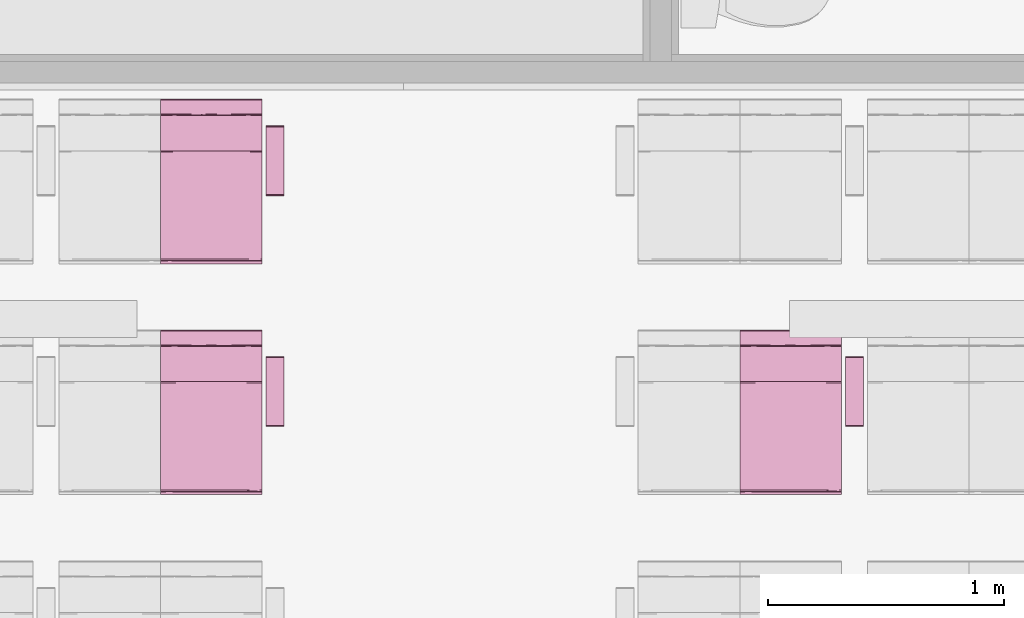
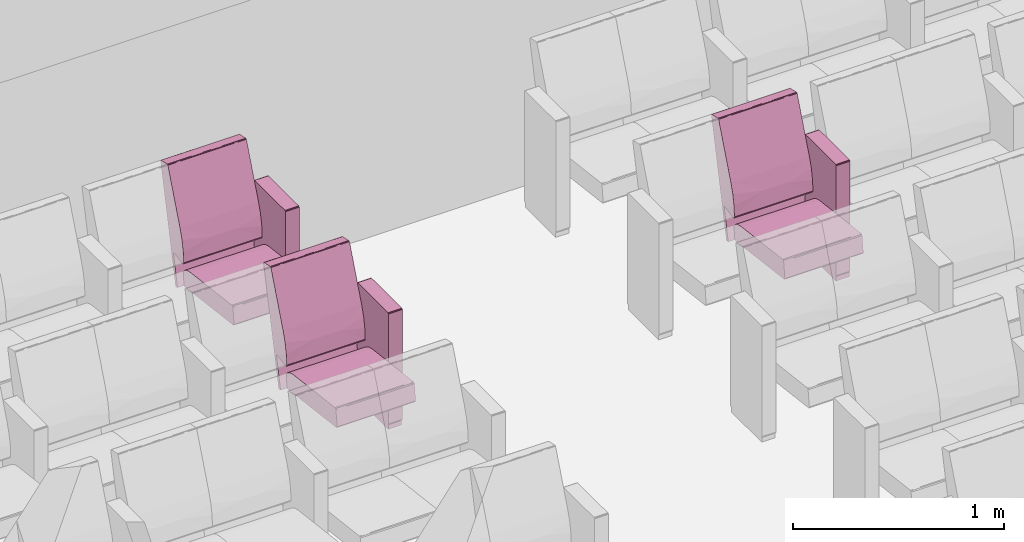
# One storey, part 124 of 155: 3 furnishings.
"""IFC2X3 building model written with IfcOpenShell, lengths in metres."""

from ifc_helpers import new_model, entity, si_unit, converted_unit, derived_unit, direction, frame, origin, place, context, subcontext, project, spatial, faceted_brep, source, transform, mapped, material, material_list, type_object, type_shapes, element, save


model = new_model("IFC2X3")

# Units and contexts
model_context = context("Model", 3, precision=1e-05, world=origin(), true_north=direction((6.12303176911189e-17, 1.0)))
body_context = subcontext(model_context, "Body", "Model", "MODEL_VIEW")
ifc_project = project(units=[si_unit("LENGTHUNIT", "METRE"), si_unit("AREAUNIT", "SQUARE_METRE"), si_unit("VOLUMEUNIT", "CUBIC_METRE"), converted_unit("PLANEANGLEUNIT", "DEGREE", entity("IfcRatioMeasure", 0.0174532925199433), si_unit("PLANEANGLEUNIT", "RADIAN"), dimensions=[0, 0, 0, 0, 0, 0, 0]), si_unit("MASSUNIT", "GRAM", prefix="KILO"), derived_unit("MASSDENSITYUNIT", [(si_unit("MASSUNIT", "GRAM", prefix="KILO"), 1), (si_unit("LENGTHUNIT", "METRE"), -3)]), si_unit("TIMEUNIT", "SECOND"), si_unit("FREQUENCYUNIT", "HERTZ"), si_unit("THERMODYNAMICTEMPERATUREUNIT", "DEGREE_CELSIUS"), derived_unit("THERMALTRANSMITTANCEUNIT", [(si_unit("MASSUNIT", "GRAM", prefix="KILO"), 1), (si_unit("THERMODYNAMICTEMPERATUREUNIT", "KELVIN"), -1), (si_unit("TIMEUNIT", "SECOND"), -3)]), derived_unit("VOLUMETRICFLOWRATEUNIT", [(si_unit("LENGTHUNIT", "METRE"), 3), (si_unit("TIMEUNIT", "SECOND"), -1)]), si_unit("ELECTRICCURRENTUNIT", "AMPERE"), si_unit("ELECTRICVOLTAGEUNIT", "VOLT"), si_unit("POWERUNIT", "WATT"), si_unit("FORCEUNIT", "NEWTON", prefix="KILO"), si_unit("ILLUMINANCEUNIT", "LUX"), si_unit("LUMINOUSFLUXUNIT", "LUMEN"), si_unit("LUMINOUSINTENSITYUNIT", "CANDELA"), derived_unit("USERDEFINED", [(si_unit("MASSUNIT", "GRAM", prefix="KILO"), -1), (si_unit("LENGTHUNIT", "METRE"), -2), (si_unit("TIMEUNIT", "SECOND"), 3), (si_unit("LUMINOUSFLUXUNIT", "LUMEN"), 1)]), derived_unit("LINEARVELOCITYUNIT", [(si_unit("LENGTHUNIT", "METRE"), 1), (si_unit("TIMEUNIT", "SECOND"), -1)]), si_unit("PRESSUREUNIT", "PASCAL"), derived_unit("USERDEFINED", [(si_unit("LENGTHUNIT", "METRE"), -2), (si_unit("MASSUNIT", "GRAM", prefix="KILO"), 1), (si_unit("TIMEUNIT", "SECOND"), -2)])], contexts=[model_context])

# Site, building, storey, space
site_placement = place(None, frame((26.9889013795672, -17.5624287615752, 0.0)))
site = spatial("IfcSite", under=ifc_project, at=site_placement, Name="Default", CompositionType="ELEMENT")
building_placement = place(site_placement, origin())
building = spatial("IfcBuilding", under=site, at=building_placement, Name="C. C. L. Monsenhor Antônio Sampaio", CompositionType="ELEMENT")
storey_placement = place(building_placement, frame((0.0, 0.0, 1.19999999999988)))
storey = spatial("IfcBuildingStorey", under=building, at=storey_placement, Name="Nível 1.2", CompositionType="ELEMENT", Elevation=1.19999999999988)
space_placement = place(storey_placement, origin())
space = spatial("IfcSpace", under=storey, at=space_placement, Name="94", CompositionType="ELEMENT", InteriorOrExteriorSpace="INTERNAL")

# Furnishings
ifc_material_1 = material(Name="V9 - V9 - Ecopelle_672_658")
ifc_material_2 = material(Name="V9 - V9 - RAL_9006_Grigio")
ifc_material_list_1 = material_list([ifc_material_1, ifc_material_2])
ifc_material_list_2 = material_list([ifc_material_1, ifc_material_2])
furniture_type = type_object("IfcFurnitureType", Name="Cadeira auditório", material=ifc_material_list_2)
shared_shape = source(origin(), body_context, "Body", "Brep", [
    faceted_brep([(0.405536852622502, -0.1075, 0.339809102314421), (0.410560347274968, -0.131924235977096, 0.34246450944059), (0.405536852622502, -0.156348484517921, 0.339809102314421), (0.41079981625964, -0.0179166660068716, 0.342749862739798), (0.410597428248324, -0.084060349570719, 0.342506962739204), (0.405536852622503, -0.0537499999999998, 0.339809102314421), (0.410248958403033, -0.173608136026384, 0.342130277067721), (0.405536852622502, -0.215, 0.339809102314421), (0.412515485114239, -0.143333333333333, 0.348529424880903), (0.412515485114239, -0.185674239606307, 0.348529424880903), (0.405536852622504, 0.1075, 0.33980910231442), (0.405536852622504, 0.156348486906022, 0.33980910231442), (0.410560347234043, 0.131924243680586, 0.342464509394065), (0.405536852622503, 0.0, 0.33980910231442), (0.411170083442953, 0.0341365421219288, 0.343251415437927), (0.41251548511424, 0.0, 0.348529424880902), (0.412515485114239, -0.0358333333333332, 0.348529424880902), (0.412515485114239, -0.0716666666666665, 0.348529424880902), (0.41251548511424, 0.143333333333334, 0.348529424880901), (0.41059742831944, 0.0840603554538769, 0.342506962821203), (0.405536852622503, 0.0537500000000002, 0.33980910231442), (0.410248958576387, 0.173608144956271, 0.342130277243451), (0.410799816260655, 0.215, 0.342749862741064), (0.412515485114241, 0.185674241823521, 0.348529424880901), (0.412515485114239, -0.215, 0.348529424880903), (0.410799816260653, -0.215, 0.342749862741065), (0.412515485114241, 0.215, 0.348529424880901), (0.41251548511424, 0.0716666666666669, 0.348529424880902), (0.405536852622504, 0.215, 0.33980910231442), (-0.0557900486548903, -0.215, 0.28268145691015), (-0.0557900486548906, -0.1881249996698, 0.282681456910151), (-0.0557900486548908, -0.161250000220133, 0.282681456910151), (-0.055790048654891, -0.134374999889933, 0.282681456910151), (-0.0557900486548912, -0.107499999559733, 0.282681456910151), (-0.0557900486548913, -0.0806250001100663, 0.282681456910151), (-0.0557900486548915, -0.0537499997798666, 0.282681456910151), (-0.0557900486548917, -0.0268749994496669, 0.282681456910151), (-0.0557900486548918, 0.0, 0.28268145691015), (-0.0557900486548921, 0.0268750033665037, 0.282681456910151), (-0.0557900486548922, 0.0537499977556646, 0.282681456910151), (-0.0557900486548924, 0.0806249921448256, 0.282681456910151), (-0.0557900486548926, 0.107499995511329, 0.282681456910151), (-0.0557900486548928, 0.138065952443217, 0.282681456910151), (-0.055790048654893, 0.168631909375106, 0.282681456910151), (-0.0557900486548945, 0.215, 0.28268145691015), (-0.0594787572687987, -0.0179017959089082, 0.283700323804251), (-0.0613666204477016, 0.0, 0.287029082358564), (-0.0594787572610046, 0.0152829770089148, 0.283700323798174), (-0.0594787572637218, -0.215, 0.283700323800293), (-0.0613666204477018, -0.215, 0.287029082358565), (-0.0613666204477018, -0.191815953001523, 0.287029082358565), (-0.0613666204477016, -0.030565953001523, 0.287029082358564), (-0.0593340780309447, -0.0671874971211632, 0.283591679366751), (-0.0593337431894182, 0.184174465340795, 0.283591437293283), (-0.0594787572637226, 0.215, 0.283700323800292), (-0.0593023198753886, 0.0940625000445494, 0.283568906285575), (-0.0613666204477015, 0.0611319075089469, 0.287029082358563), (-0.0613666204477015, 0.0916978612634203, 0.287029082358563), (-0.0613666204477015, 0.122263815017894, 0.287029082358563), (-0.0597338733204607, -0.147039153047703, 0.283913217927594), (-0.0613666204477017, -0.122263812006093, 0.287029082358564), (-0.059382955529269, -0.118123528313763, 0.28362747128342), (-0.0592501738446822, -0.180223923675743, 0.283532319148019), (-0.0613666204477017, -0.168631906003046, 0.287029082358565), (-0.0588783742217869, -0.0926899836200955, 0.283298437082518), (-0.0613666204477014, 0.168631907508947, 0.287029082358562), (-0.0613666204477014, 0.215, 0.287029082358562), (-0.0592576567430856, 0.123736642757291, 0.283537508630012), (-0.0594787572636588, 0.153348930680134, 0.283700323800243), (-0.0613666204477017, -0.0916978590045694, 0.287029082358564), (-0.0613666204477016, 0.0305659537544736, 0.287029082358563), (-0.059645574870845, 0.045848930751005, 0.283836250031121), (-0.0613666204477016, -0.0611319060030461, 0.287029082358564), (-0.0693403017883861, 0.143333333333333, 0.351419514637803), (-0.069340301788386, 0.215, 0.351419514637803), (-0.0693403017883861, -0.215, 0.351419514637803), (-0.0693403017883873, -0.143333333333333, 0.351419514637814), (-0.069340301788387, -0.0716666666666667, 0.351419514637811), (-0.0693403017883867, 0.0, 0.351419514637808), (-0.0693403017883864, 0.0716666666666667, 0.351419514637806), (-0.0653387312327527, -0.0126787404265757, 0.368680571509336), (-0.0645543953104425, -0.112272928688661, 0.369803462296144), (-0.0597085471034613, 0.0, 0.37476954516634), (-0.0655136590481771, 0.104400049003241, 0.368411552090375), (-0.0681665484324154, 0.0888707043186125, 0.36292533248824), (-0.0694879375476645, -0.0590582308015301, 0.356377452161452), (-0.0695056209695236, 0.125492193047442, 0.356093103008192), (-0.0597085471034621, 0.110316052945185, 0.374769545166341), (-0.0676206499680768, -0.215, 0.364371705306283), (-0.0672851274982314, -0.108066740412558, 0.365148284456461), (-0.0690003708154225, -0.132942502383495, 0.359900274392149), (-0.068624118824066, -0.215, 0.356813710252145), (-0.0686241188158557, 0.214999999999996, 0.356813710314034), (-0.0694502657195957, 0.0358333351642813, 0.356863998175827), (-0.0686999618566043, -0.035833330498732, 0.36116674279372), (-0.067620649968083, 0.214999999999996, 0.364371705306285), (-0.063664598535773, 0.214999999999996, 0.369570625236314), (-0.0597085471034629, 0.214999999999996, 0.374769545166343), (-0.0597085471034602, -0.110316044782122, 0.374769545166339), (-0.0636645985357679, -0.215, 0.36957062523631), (-0.0597085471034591, -0.215, 0.374769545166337), (-0.0018793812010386, -0.215, 0.398686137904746), (-0.0324117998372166, -0.0436847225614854, 0.39063968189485), (-0.0324117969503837, -0.215, 0.390639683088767), (-0.041847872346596, 0.0856576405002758, 0.386239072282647), (-0.00187938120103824, 0.102488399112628, 0.398686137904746), (-0.00187938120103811, 0.215, 0.398686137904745), (-0.0324117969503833, 0.215, 0.390639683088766), (-0.0219042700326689, 0.0570631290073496, 0.394412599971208), (-0.00187938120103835, 0.0, 0.398686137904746), (0.392202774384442, -0.215, 0.447486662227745), (0.392202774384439, -0.156349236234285, 0.447486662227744), (0.392202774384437, -0.107499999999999, 0.447486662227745), (0.392202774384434, -0.0537499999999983, 0.447486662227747), (0.392202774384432, 0.0, 0.447486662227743), (0.392202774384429, 0.0537500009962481, 0.44748666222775), (0.392202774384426, 0.107500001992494, 0.447486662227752), (0.392202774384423, 0.156349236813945, 0.447486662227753), (0.392202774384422, 0.215, 0.447486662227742), (0.397860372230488, 0.0827732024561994, 0.446039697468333), (0.401125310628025, 0.0976984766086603, 0.440530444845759), (0.398104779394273, 0.131924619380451, 0.445856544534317), (0.397373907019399, 0.173462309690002, 0.446363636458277), (0.401125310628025, 0.156349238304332, 0.440530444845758), (0.401125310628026, 0.215000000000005, 0.440530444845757), (0.398104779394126, 0.215000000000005, 0.445856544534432), (0.397860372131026, -0.0827731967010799, 0.446039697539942), (0.398104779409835, -0.131924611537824, 0.445856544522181), (0.398104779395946, -0.0268749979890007, 0.445856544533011), (0.398104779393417, 0.0237489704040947, 0.445856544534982), (0.401125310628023, -0.0488492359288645, 0.440530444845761), (0.401125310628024, 0.0488492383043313, 0.44053044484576), (0.398774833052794, -0.173462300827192, 0.445271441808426), (0.401125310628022, -0.0976984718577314, 0.440530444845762), (0.39810477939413, -0.215, 0.445856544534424), (0.401125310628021, -0.215, 0.440530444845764), (0.401125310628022, -0.156349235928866, 0.440530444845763), (0.401125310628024, 0.0, 0.44053044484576)], [[[0, 1, 2]], [[3, 4, 5]], [[2, 6, 7]], [[8, 9, 6]], [[10, 11, 12]], [[13, 3, 5]], [[3, 14, 15]], [[1, 4, 8]], [[6, 1, 8]], [[4, 3, 16]], [[16, 17, 8, 4]], [[12, 18, 19]], [[4, 1, 0]], [[20, 14, 13]], [[21, 22, 23]], [[15, 16, 3]], [[9, 24, 25]], [[26, 23, 22]], [[7, 6, 25]], [[12, 11, 21]], [[19, 14, 20]], [[4, 0, 5]], [[14, 27, 15]], [[13, 14, 3]], [[19, 18, 27]], [[19, 10, 12]], [[18, 21, 23]], [[10, 19, 20]], [[19, 27, 14]], [[2, 1, 6]], [[21, 11, 28]], [[25, 6, 9]], [[18, 12, 21]], [[22, 21, 28]], [[28, 11, 10, 20, 13, 5, 0, 2, 7, 29, 30, 31, 32, 33, 34, 35, 36, 37, 38, 39, 40, 41, 42, 43, 44]], [[45, 46, 47]], [[48, 49, 50]], [[51, 45, 52]], [[53, 54, 44]], [[55, 56, 57, 58]], [[59, 60, 61]], [[62, 63, 59]], [[34, 64, 52]], [[53, 65, 66]], [[41, 67, 42]], [[37, 36, 35, 45, 47, 38]], [[43, 42, 68]], [[29, 48, 30]], [[59, 31, 62]], [[62, 48, 50]], [[61, 69, 64]], [[65, 53, 68]], [[50, 63, 62]], [[62, 30, 48]], [[55, 58, 67]], [[32, 31, 59]], [[46, 70, 47]], [[65, 68, 58]], [[55, 40, 71]], [[70, 56, 71]], [[61, 33, 32]], [[59, 63, 60]], [[39, 38, 71, 40]], [[47, 71, 38]], [[51, 46, 45]], [[70, 71, 47]], [[71, 56, 55]], [[40, 55, 41]], [[67, 68, 42]], [[43, 68, 53]], [[43, 53, 44]], [[66, 54, 53]], [[68, 67, 58]], [[55, 67, 41]], [[72, 51, 52, 69]], [[62, 31, 30]], [[59, 61, 32]], [[35, 52, 45]], [[64, 34, 33]], [[34, 52, 35]], [[61, 60, 69]], [[52, 64, 69]], [[61, 64, 33]], [[73, 74, 66, 65, 58, 57, 56, 70, 46, 51, 72, 69, 60, 63, 50, 49, 75, 76, 77, 78, 79]], [[80, 81, 82]], [[83, 84, 80]], [[85, 78, 77, 76]], [[73, 79, 86]], [[80, 82, 83]], [[87, 83, 82]], [[88, 89, 90]], [[76, 75, 91]], [[92, 74, 73]], [[91, 90, 85]], [[80, 89, 81]], [[84, 93, 94]], [[84, 86, 93]], [[93, 78, 85]], [[73, 86, 92]], [[94, 93, 85]], [[95, 92, 84]], [[78, 93, 79]], [[80, 84, 94]], [[83, 96, 95]], [[94, 85, 90]], [[87, 97, 96]], [[98, 99, 100]], [[91, 85, 76]], [[94, 90, 89]], [[90, 91, 88]], [[89, 80, 94]], [[89, 99, 81]], [[89, 88, 99]], [[82, 81, 98]], [[81, 99, 98]], [[92, 86, 84]], [[93, 86, 79]], [[84, 83, 95]], [[96, 83, 87]], [[101, 102, 103]], [[104, 97, 87, 82]], [[105, 106, 107]], [[107, 108, 105]], [[109, 102, 101]], [[82, 102, 104]], [[102, 108, 104]], [[103, 102, 100]], [[97, 104, 107]], [[104, 108, 107]], [[102, 82, 98, 100]], [[105, 108, 109]], [[108, 102, 109]], [[109, 101, 110, 111, 112, 113, 114, 115, 116, 117, 118, 106, 105]], [[119, 120, 121]], [[122, 123, 124]], [[122, 125, 118]], [[126, 113, 112]], [[117, 121, 122]], [[121, 117, 116]], [[112, 111, 127]], [[113, 128, 129, 115, 114]], [[126, 130, 128]], [[129, 131, 119]], [[111, 132, 127]], [[132, 111, 110]], [[133, 126, 127]], [[123, 122, 121]], [[132, 134, 135]], [[127, 132, 136]], [[123, 121, 120]], [[127, 136, 133]], [[129, 128, 130, 137, 131]], [[112, 127, 126]], [[126, 133, 130]], [[119, 121, 116]], [[113, 126, 128]], [[119, 115, 129]], [[119, 116, 115]], [[120, 119, 131]], [[117, 122, 118]], [[124, 125, 122]], [[136, 132, 135]], [[110, 134, 132]], [[137, 130, 133, 136, 135, 24, 9, 8, 17, 16, 15, 27, 18, 23, 26, 124, 123, 120, 131]], [[44, 54, 66, 74, 92, 95, 96, 97, 107, 106, 118, 125, 124, 26, 22, 28]], [[75, 49, 48, 29, 7, 25, 24, 135, 134, 110, 101, 103, 100, 99, 88, 91]]]),
    faceted_brep([(0.119812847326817, 0.27, 0.674900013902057), (0.12334838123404, 0.259944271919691, 0.6734355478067), (0.123144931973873, 0.283972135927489, 0.673627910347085), (0.124812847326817, 0.27, 0.669900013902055), (0.119812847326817, 0.232, 0.674900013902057), (0.12334838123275, 0.232, 0.673435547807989), (0.124812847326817, 0.308, 0.669900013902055), (0.119812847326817, 0.308, 0.674900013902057), (0.124812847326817, 0.249888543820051, 0.669900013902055), (0.124812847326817, 0.232, 0.669900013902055), (0.12334838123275, 0.308, 0.673435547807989), (0.124812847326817, 0.232, 0.0349999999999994), (0.124812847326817, 0.27, 0.035), (0.124812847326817, 0.308, 0.035), (0.12334838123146, 0.25994427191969, 0.0314644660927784), (0.123540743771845, 0.283972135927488, 0.0316679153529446), (0.119812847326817, 0.27, 0.0300000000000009), (0.12334838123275, 0.232, 0.0314644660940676), (0.119812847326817, 0.308, 0.0300000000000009), (0.119812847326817, 0.249888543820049, 0.030000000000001), (0.119812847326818, 0.232, 0.030000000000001), (0.123348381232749, 0.308, 0.0314644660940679), (-0.167179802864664, 0.27, 0.0300000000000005), (-0.167179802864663, 0.308, 0.0300000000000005), (-0.167179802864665, 0.232, 0.0300000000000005), (-0.170715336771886, 0.25994427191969, 0.0314644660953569), (-0.17051188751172, 0.283972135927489, 0.0312721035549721), (-0.172179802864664, 0.27, 0.0350000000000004), (-0.170715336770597, 0.232, 0.0314644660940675), (-0.172179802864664, 0.308, 0.0350000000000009), (-0.172179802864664, 0.24988854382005, 0.0350000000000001), (-0.172179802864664, 0.232, 0.0349999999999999), (-0.170715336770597, 0.308, 0.0314644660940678), (-0.172179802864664, 0.308, 0.669900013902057), (-0.172179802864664, 0.232, 0.669900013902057), (-0.172179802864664, 0.27, 0.669900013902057), (-0.170715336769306, 0.259944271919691, 0.673435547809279), (-0.170907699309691, 0.283972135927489, 0.673232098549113), (-0.167179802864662, 0.27, 0.674900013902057), (-0.170715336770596, 0.232, 0.67343554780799), (-0.167179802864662, 0.308, 0.674900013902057), (-0.167179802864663, 0.249888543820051, 0.674900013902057), (-0.167179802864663, 0.232, 0.674900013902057), (-0.170715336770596, 0.308, 0.67343554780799)], [[[0, 1, 2]], [[3, 2, 1]], [[0, 4, 5, 1]], [[2, 3, 6]], [[0, 2, 7]], [[8, 3, 1, 5, 9]], [[7, 2, 10]], [[6, 10, 2]], [[9, 11, 12, 13, 6, 3, 8]], [[12, 14, 15]], [[16, 15, 14]], [[12, 11, 17, 14]], [[15, 16, 18]], [[12, 15, 13]], [[19, 16, 14, 17, 20]], [[13, 15, 21]], [[18, 21, 15]], [[22, 23, 18, 16, 19, 20, 24]], [[22, 25, 26]], [[27, 26, 25]], [[22, 24, 28, 25]], [[26, 27, 29]], [[22, 26, 23]], [[30, 27, 25, 28, 31]], [[23, 26, 32]], [[29, 32, 26]], [[33, 29, 27, 30, 31, 34, 35]], [[35, 36, 37]], [[38, 37, 36]], [[35, 34, 39, 36]], [[37, 38, 40]], [[35, 37, 33]], [[41, 38, 36, 39, 42]], [[33, 37, 43]], [[40, 43, 37]], [[0, 7, 40, 38, 41, 42, 4]], [[42, 39, 34, 31, 28, 24, 20, 17, 11, 9, 5, 4]], [[23, 32, 29, 33, 43, 40, 7, 10, 6, 13, 21, 18]]]),
    faceted_brep([(-0.0655618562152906, -0.215, 0.415143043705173), (-0.0744051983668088, -0.0524423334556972, 0.506888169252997), (-0.0695672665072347, -0.215, 0.476508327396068), (-0.0655618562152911, 0.0, 0.415143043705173), (-0.0744051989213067, 0.0780075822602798, 0.506888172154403), (-0.0655618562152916, 0.1075, 0.415143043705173), (-0.0655618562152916, 0.215, 0.415143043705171), (-0.0655618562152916, -0.1075, 0.415143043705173), (-0.0695672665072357, 0.215, 0.476508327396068), (-0.0811110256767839, 0.215, 0.536911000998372), (-0.0811110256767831, -0.215, 0.536911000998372), (-0.100016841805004, 0.0, 0.595428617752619), (-0.100016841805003, -0.215, 0.595428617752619), (-0.100016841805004, 0.215, 0.595428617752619), (-0.0792851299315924, -0.0716666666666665, 0.404772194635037), (-0.0792851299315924, 0.0, 0.404772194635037), (-0.0698317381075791, -0.0358333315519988, 0.406528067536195), (-0.0698317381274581, 0.215, 0.406528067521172), (-0.0792851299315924, 0.143333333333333, 0.404772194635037), (-0.0792851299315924, 0.215, 0.404772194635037), (-0.0698317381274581, -0.215, 0.406528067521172), (-0.0792851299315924, -0.215, 0.404772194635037), (-0.0792851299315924, -0.143333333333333, 0.404772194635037), (-0.0694171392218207, -0.140338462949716, 0.406857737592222), (-0.0708115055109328, 0.0356393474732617, 0.405868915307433), (-0.0703502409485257, 0.107500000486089, 0.406159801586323), (-0.0792851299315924, 0.0716666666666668, 0.404772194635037), (-0.163837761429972, 0.215, 0.420611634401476), (-0.163837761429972, -0.215, 0.420611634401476), (-0.123612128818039, -0.215, 0.235917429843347), (-0.123612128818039, 0.215, 0.235917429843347), (-0.142059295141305, -0.215, 0.231899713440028), (-0.142059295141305, 0.215, 0.231899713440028), (-0.235388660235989, -0.215, 0.652619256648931), (-0.235388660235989, 0.215, 0.652619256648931), (-0.28428001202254, 0.0, 0.873004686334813), (-0.284280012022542, 0.0268749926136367, 0.873004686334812), (-0.284280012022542, 0.0537499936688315, 0.873004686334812), (-0.284280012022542, 0.0806249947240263, 0.873004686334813), (-0.284280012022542, 0.107499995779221, 0.873004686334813), (-0.284280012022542, 0.134374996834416, 0.873004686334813), (-0.284280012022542, 0.161249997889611, 0.873004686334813), (-0.284280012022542, 0.191295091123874, 0.873004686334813), (-0.28428001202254, 0.215, 0.873004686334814), (-0.284280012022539, -0.215, 0.873004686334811), (-0.28428001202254, -0.191295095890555, 0.873004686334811), (-0.284280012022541, -0.161249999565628, 0.873004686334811), (-0.284280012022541, -0.134374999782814, 0.873004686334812), (-0.284280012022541, -0.1075, 0.873004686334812), (-0.284280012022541, -0.0806250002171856, 0.873004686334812), (-0.284280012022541, -0.0537500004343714, 0.873004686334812), (-0.284280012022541, -0.0268749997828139, 0.873004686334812), (-0.283504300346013, -0.0569644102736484, 0.877068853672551), (-0.283746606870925, -0.0872244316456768, 0.876674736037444), (-0.283641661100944, 0.12093750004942, 0.876855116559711), (-0.283567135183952, 0.15546176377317, 0.876973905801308), (-0.28330409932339, -0.185293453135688, 0.877344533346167), (-0.283567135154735, -0.155461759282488, 0.876973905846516), (-0.280514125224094, 0.0, 0.879190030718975), (-0.280514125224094, 0.0358333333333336, 0.879190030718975), (-0.283641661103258, 0.0136463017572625, 0.876855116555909), (-0.283641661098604, -0.0179166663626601, 0.876855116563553), (-0.280514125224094, -0.0358333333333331, 0.879190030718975), (-0.280514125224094, 0.1075, 0.879190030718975), (-0.280514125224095, 0.143333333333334, 0.879190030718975), (-0.283746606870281, 0.0872244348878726, 0.876674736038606), (-0.280514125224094, 0.071666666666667, 0.879190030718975), (-0.280514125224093, -0.1075, 0.879190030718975), (-0.280514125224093, -0.0716666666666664, 0.879190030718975), (-0.280514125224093, -0.143333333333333, 0.879190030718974), (-0.283641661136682, -0.120937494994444, 0.876855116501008), (-0.283641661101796, -0.215, 0.876855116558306), (-0.283641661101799, 0.215, 0.876855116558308), (-0.280514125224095, 0.167590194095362, 0.879190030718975), (-0.283304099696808, 0.18529345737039, 0.877344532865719), (-0.280514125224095, 0.215, 0.879190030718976), (-0.280514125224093, -0.167590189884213, 0.879190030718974), (-0.280514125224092, -0.215, 0.879190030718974), (-0.283504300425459, 0.0569644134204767, 0.8770688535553), (-0.221112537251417, -0.215, 0.892176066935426), (-0.221112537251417, -0.19181594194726, 0.892176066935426), (-0.221112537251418, -0.16124999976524, 0.892176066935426), (-0.221112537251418, -0.13437499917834, 0.892176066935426), (-0.221112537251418, -0.10749999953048, 0.892176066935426), (-0.221112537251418, -0.08062499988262, 0.892176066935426), (-0.221112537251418, -0.0537500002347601, 0.892176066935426), (-0.221112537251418, -0.0268750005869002, 0.892176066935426), (-0.221112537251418, 0.0, 0.892176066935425), (-0.221112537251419, 0.0268750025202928, 0.892176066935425), (-0.221112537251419, 0.053749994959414, 0.892176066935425), (-0.221112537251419, 0.0806249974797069, 0.892176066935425), (-0.221112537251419, 0.1075, 0.892176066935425), (-0.221112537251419, 0.134375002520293, 0.892176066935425), (-0.221112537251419, 0.161250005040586, 0.892176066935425), (-0.221112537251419, 0.191815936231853, 0.892176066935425), (-0.221112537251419, 0.215, 0.892176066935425), (-0.217722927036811, -0.0162353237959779, 0.891719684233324), (-0.215419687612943, -0.0358333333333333, 0.889191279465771), (-0.215419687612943, 0.0, 0.889191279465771), (-0.217722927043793, 0.0134375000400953, 0.891719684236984), (-0.217722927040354, 0.120937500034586, 0.89171968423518), (-0.217722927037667, 0.0912646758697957, 0.891719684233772), (-0.215419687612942, 0.0716666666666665, 0.88919127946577), (-0.215419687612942, 0.1075, 0.88919127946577), (-0.215419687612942, 0.143333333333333, 0.88919127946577), (-0.217722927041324, 0.215, 0.891719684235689), (-0.217722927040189, 0.182482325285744, 0.891719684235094), (-0.215419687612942, 0.168631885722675, 0.889191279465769), (-0.215419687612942, 0.191815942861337, 0.889191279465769), (-0.215419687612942, 0.215, 0.889191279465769), (-0.217722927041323, -0.215, 0.89171968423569), (-0.215419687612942, -0.215, 0.889191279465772), (-0.215419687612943, -0.191815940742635, 0.889191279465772), (-0.217722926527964, -0.190103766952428, 0.891719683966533), (-0.2179983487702, 0.039082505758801, 0.891853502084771), (-0.217816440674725, 0.0647800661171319, 0.891767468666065), (-0.217558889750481, 0.155982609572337, 0.891629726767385), (-0.217722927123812, -0.120937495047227, 0.891719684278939), (-0.217558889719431, -0.15598260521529, 0.891629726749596), (-0.215419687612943, -0.143333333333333, 0.889191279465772), (-0.215419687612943, -0.16863188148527, 0.889191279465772), (-0.215419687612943, -0.0716666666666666, 0.889191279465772), (-0.217816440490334, -0.0647800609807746, 0.891767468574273), (-0.217722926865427, -0.0912646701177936, 0.891719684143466), (-0.215419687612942, 0.0358333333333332, 0.889191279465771), (-0.215419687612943, -0.1075, 0.889191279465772), (-0.218257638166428, -0.0404491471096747, 0.891961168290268)], [[[0, 1, 2]], [[3, 4, 1]], [[4, 3, 5, 6]], [[1, 0, 7, 3]], [[8, 4, 6]], [[9, 4, 8]], [[1, 10, 2]], [[1, 11, 12]], [[9, 13, 4]], [[13, 11, 4]], [[10, 1, 12]], [[11, 1, 4]], [[14, 15, 16]], [[17, 18, 19]], [[20, 21, 22]], [[20, 23, 0]], [[3, 7, 16]], [[15, 24, 16]], [[24, 25, 5]], [[22, 23, 20]], [[7, 23, 16]], [[6, 5, 17]], [[16, 24, 3]], [[16, 23, 14]], [[23, 22, 14]], [[18, 25, 26]], [[18, 17, 25]], [[26, 24, 15]], [[7, 0, 23]], [[5, 25, 17]], [[25, 24, 26]], [[3, 24, 5]], [[27, 19, 18, 26, 15, 14, 22, 21, 28]], [[27, 28, 29, 30]], [[31, 32, 30, 29]], [[33, 34, 32, 31]], [[35, 36, 37, 38, 39, 40, 41, 42, 43, 34, 33, 44, 45, 46, 47, 48, 49, 50, 51]], [[52, 49, 53]], [[54, 55, 40]], [[46, 56, 57]], [[58, 59, 60, 61, 62]], [[54, 63, 64]], [[65, 66, 63]], [[67, 68, 53]], [[57, 69, 70]], [[45, 56, 46]], [[39, 54, 40]], [[45, 44, 71]], [[72, 43, 42]], [[35, 51, 61, 60, 36]], [[55, 73, 74]], [[39, 65, 54]], [[74, 73, 75]], [[67, 53, 70]], [[74, 42, 41]], [[64, 73, 55]], [[56, 76, 57]], [[74, 72, 42]], [[76, 56, 77]], [[56, 71, 77]], [[57, 76, 69]], [[48, 70, 53]], [[70, 48, 47]], [[60, 78, 36]], [[63, 54, 65]], [[71, 56, 45]], [[41, 55, 74]], [[72, 74, 75]], [[57, 70, 47]], [[47, 46, 57]], [[69, 67, 70]], [[50, 49, 52, 51]], [[52, 62, 61]], [[61, 51, 52]], [[55, 41, 40]], [[55, 54, 64]], [[66, 65, 78]], [[65, 38, 78]], [[52, 53, 68]], [[37, 36, 78, 38]], [[78, 59, 66]], [[59, 78, 60]], [[49, 48, 53]], [[65, 39, 38]], [[52, 68, 62]], [[79, 80, 81, 82, 83, 84, 85, 86, 87, 88, 89, 90, 91, 92, 93, 94, 95, 75, 73, 64, 63, 66, 59, 58, 62, 68, 67, 69, 76, 77]], [[96, 97, 98, 99]], [[100, 101, 102, 103, 104]], [[105, 106, 107, 108, 109]], [[110, 111, 112]], [[80, 110, 113]], [[89, 114, 115]], [[92, 116, 93]], [[94, 93, 106, 105, 95]], [[80, 79, 110]], [[92, 91, 90, 101, 100]], [[99, 88, 87, 86, 96]], [[104, 107, 116]], [[117, 83, 82]], [[117, 118, 119]], [[112, 120, 113]], [[118, 120, 119]], [[118, 81, 113]], [[116, 107, 106]], [[101, 90, 115]], [[121, 122, 123]], [[104, 116, 100]], [[110, 112, 113]], [[114, 99, 124]], [[92, 100, 116]], [[117, 125, 123]], [[82, 81, 118]], [[118, 117, 82]], [[83, 117, 123]], [[125, 117, 119]], [[102, 101, 115]], [[84, 83, 123]], [[123, 125, 121]], [[85, 84, 122]], [[89, 115, 90]], [[96, 86, 126]], [[124, 102, 115]], [[88, 99, 114]], [[99, 98, 124]], [[122, 121, 97]], [[126, 122, 97]], [[88, 114, 89]], [[115, 114, 124]], [[123, 122, 84]], [[126, 85, 122]], [[85, 126, 86]], [[96, 126, 97]], [[116, 106, 93]], [[80, 113, 81]], [[118, 113, 120]], [[12, 11, 13, 109, 108, 107, 104, 103, 102, 124, 98, 97, 121, 125, 119, 120, 112, 111]], [[30, 32, 34, 43, 72, 75, 95, 105, 109, 13, 9, 8, 6, 17, 19, 27]], [[77, 71, 44, 33, 31, 29, 28, 21, 20, 0, 2, 10, 12, 111, 110, 79]]]),
    faceted_brep([(0.120312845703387, 0.2335, 0.0), (0.120312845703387, 0.3065, 0.0), (0.120312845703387, 0.3065, 0.0260000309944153), (0.120312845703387, 0.27, 0.0260000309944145), (0.120312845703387, 0.249500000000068, 0.0260000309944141), (0.120312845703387, 0.2335, 0.0260000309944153), (-0.167687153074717, 0.2335, 0.0), (-0.167687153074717, 0.3065, 0.0), (-0.167687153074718, 0.3065, 0.0260000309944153), (-0.167687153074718, 0.2335, 0.0260000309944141), (-0.167687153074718, 0.27, 0.0260000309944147), (-0.163702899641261, 0.233500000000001, 0.0300000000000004), (-0.166521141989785, 0.257382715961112, 0.0288228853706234), (-0.166521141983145, 0.233500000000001, 0.0288228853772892), (-0.166521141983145, 0.3065, 0.0288228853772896), (-0.16652114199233, 0.279986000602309, 0.0288228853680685), (-0.163702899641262, 0.3065, 0.0300000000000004), (-0.163702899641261, 0.27, 0.0300000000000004), (0.116297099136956, 0.2335, 0.0300000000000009), (0.116297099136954, 0.270000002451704, 0.0300000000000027), (0.116297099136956, 0.3065, 0.0300000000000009), (0.119033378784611, 0.283124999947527, 0.0289323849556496), (0.119135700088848, 0.259750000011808, 0.0288340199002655), (0.1191357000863, 0.2335, 0.0288340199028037), (0.119135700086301, 0.3065, 0.0288340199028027)], [[[0, 1, 2, 3, 4, 5]], [[6, 7, 1, 0]], [[8, 7, 6, 9, 10]], [[11, 12, 13]], [[14, 15, 16]], [[17, 16, 15, 12, 11]], [[13, 12, 10, 9]], [[8, 15, 14]], [[12, 15, 8, 10]], [[16, 17, 11, 18, 19, 20]], [[3, 2, 21]], [[22, 19, 18, 23]], [[22, 23, 5, 4, 3]], [[20, 21, 24]], [[22, 3, 21]], [[19, 21, 20]], [[2, 24, 21]], [[19, 22, 21]], [[20, 24, 2, 1, 7, 8, 14, 16]], [[18, 11, 13, 9, 6, 0, 5, 23]]]),
])
type_shapes(furniture_type, [shared_shape])
furnishing_1_placement = place(space_placement, frame((-11.0559492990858, -11.4021989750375, 0.0), z_axis=(0.0, 0.0, 1.0), x_axis=(0.0, -1.0, 0.0)))
element("IfcFurnishingElement", 1, at=furnishing_1_placement, inside=space, type_object=furniture_type, material=ifc_material_list_1, Name="cadeira auditório pcd:Cadeira auditório", ObjectType="Cadeira auditório", context=body_context, shape_type="MappedRepresentation", body=[
    mapped(shared_shape, transform((0.0, 0.0, 0.0), scale=1.0)),
])
ifc_material_list_3 = material_list([ifc_material_1, ifc_material_2])
furnishing_2_placement = place(space_placement, frame((-8.60594929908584, -11.4021989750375, 0.0), z_axis=(0.0, 0.0, 1.0), x_axis=(0.0, -1.0, 0.0)))
element("IfcFurnishingElement", 2, at=furnishing_2_placement, inside=space, type_object=furniture_type, material=ifc_material_list_3, Name="cadeira auditório pcd:Cadeira auditório", ObjectType="Cadeira auditório", context=body_context, shape_type="MappedRepresentation", body=[
    mapped(shared_shape, transform((0.0, 0.0, 0.0), scale=1.0)),
])
ifc_material_list_4 = material_list([ifc_material_1, ifc_material_2])
furnishing_3_placement = place(space_placement, frame((-11.0559492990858, -10.4255921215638, 0.0), z_axis=(0.0, 0.0, 1.0), x_axis=(0.0, -1.0, 0.0)))
element("IfcFurnishingElement", 3, at=furnishing_3_placement, inside=space, type_object=furniture_type, material=ifc_material_list_4, Name="cadeira auditório pcd:Cadeira auditório", ObjectType="Cadeira auditório", context=body_context, shape_type="MappedRepresentation", body=[
    mapped(shared_shape, transform((0.0, 0.0, 0.0), scale=1.0)),
])

save(model, "model.ifc")
